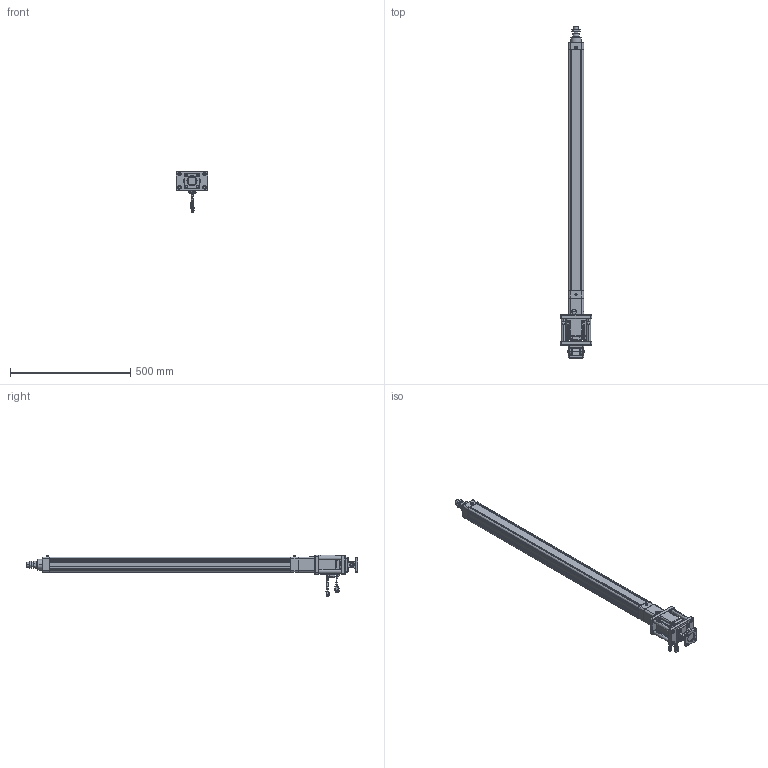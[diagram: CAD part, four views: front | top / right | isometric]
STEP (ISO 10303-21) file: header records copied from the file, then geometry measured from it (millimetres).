
FILE_DESCRIPTION((''),'2;1');
FILE_NAME('HE50-D-100-X1_ASM','2020-05-23T',('ASUS20200'),(''),'CREO PARAMETRIC BY PTC INC, 2014190','CREO PARAMETRIC BY PTC INC, 2014190','');
FILE_SCHEMA(('CONFIG_CONTROL_DESIGN'));
Products named in the file (32): HE50-D-P-001-X1; HE50-D-P-002-X1; HE50-D-P-003-X1; HE50-D-009-X1; HE50-D-010-X1; 6301ZZ; LGLM-M8-22; SKT-16; SLM-01; YZ-M6X1; _MHMF082L1A2; _CABLE_MOTOR_BOTTOM_05; _CABLE_MOTOR_TOP_05; _MOTOR_CONNECTOR_2; _CABLE_BRAKE_BOTTOM_05; _CABLE_BRAKE_TOP_05; _MHMF_CONNECTOR_9_PIN_A6; MHMF082L1A2M2_1_ASM; M6X16; JX6X6X20; JDB303820; HE50-FB-LG; F-HE50FB; M8X20; F-SE50CB; F-SE50CB-XD; F-SE50CB_ASM; F-SE50CA; HE50-D-P-005-X1; HE50-D-P-004-X1; HE50-D-P-008-X1; HE50-D-100-X1_ASM
Assembly tree (55 placements, depth 3):
  HE50-D-100-X1_ASM
    HE50-D-P-001-X1
    HE50-D-P-002-X1
    HE50-D-P-003-X1
    HE50-D-009-X1
    HE50-D-010-X1
    6301ZZ
    LGLM-M8-22  x8
    SKT-16
    SLM-01
    YZ-M6X1
    MHMF082L1A2M2_1_ASM
      _MHMF082L1A2
      _CABLE_MOTOR_BOTTOM_05
      _CABLE_MOTOR_TOP_05
      _MOTOR_CONNECTOR_2
      _CABLE_BRAKE_BOTTOM_05
      _CABLE_BRAKE_TOP_05
      _MHMF_CONNECTOR_9_PIN_A6
    M6X16  x4
    JX6X6X20
    JDB303820
    HE50-FB-LG  x4
    F-HE50FB
    M8X20  x12
    F-SE50CB_ASM
      F-SE50CB
      F-SE50CB-XD
    F-SE50CA
    HE50-D-P-005-X1
    HE50-D-P-004-X1
    HE50-D-P-008-X1
Bounding box: 130 x 1380.5 x 173.65 mm (x, y, z)
Volume: 3141315.6 mm3; surface area: 931394.4 mm2
Topology: 53 solids, 93 shells, 3241 faces, 7717 edges, 4765 vertices
Faces by surface type: plane 1301, cylinder 946, cone 793, torus 154, sphere 44, bspline 3
Entity records: 77659 total; most frequent: CARTESIAN_POINT 14386, DIRECTION 13973, ORIENTED_EDGE 12362, EDGE_CURVE 6239, AXIS2_PLACEMENT_3D 5281, VERTEX_POINT 3878, VECTOR 3411, LINE 3411
